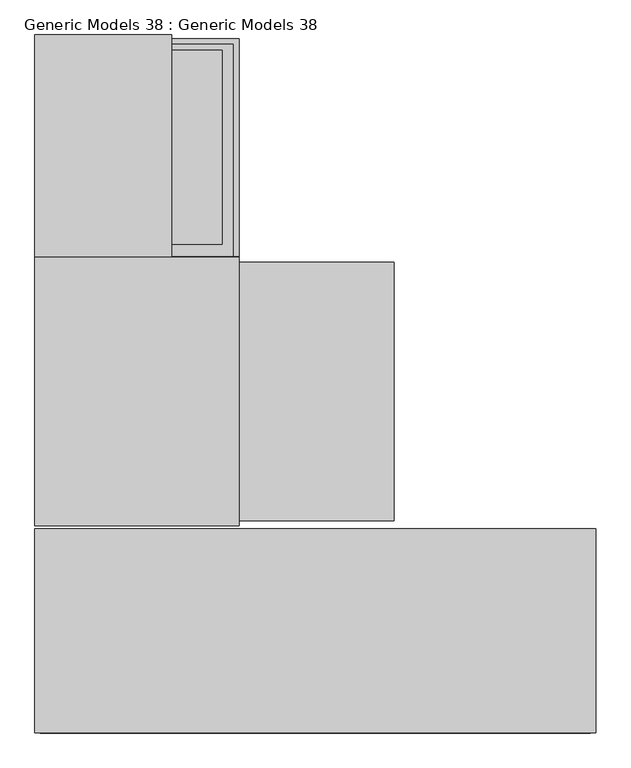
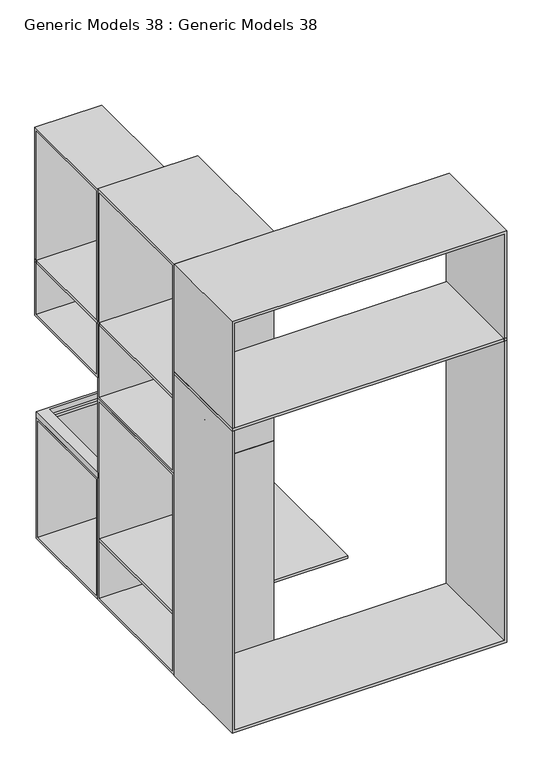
"""IFC4 building model written with IfcOpenShell, lengths in millimetres: proxy geometry, Generic Models 38 : Generic Models 38."""

import ifcopenshell
import ifcopenshell.guid

model = None  # the IFC model being written
_history = None  # IfcOwnerHistory: only IFC2X3 demands one
_inside = {}  # id of a spatial element -> (the spatial element, [elements in it])
_under = {}  # id of a project, library or spatial element -> (it, [spatial elements below it])
_declared = {}  # id of a project -> (the project, [libraries it declares])
_typed = {}  # id of a type object -> (the type object, [elements of that type])
_made_of = {}  # id of a material, layer set ... -> (it, [elements and type objects made of it])


def new_model(schema):
    """Start an empty IFC model of exactly this schema.

    Asked for "IFC4X3", IfcOpenShell would pick the latest addendum, in which some entities
    have other attributes; the version numbers below select the first issue.
    IFC2X3 requires an IfcOwnerHistory on every rooted entity: one is made here for all.
    """
    global model, _history
    if schema == "IFC4X3":
        model = ifcopenshell.file(schema_version=(4, 3, 0, 0))
    else:
        model = ifcopenshell.file(schema=schema)
    _inside.clear()
    _under.clear()
    _declared.clear()
    _typed.clear()
    _made_of.clear()
    _history = None
    if model.schema == "IFC2X3":
        org = make("IfcOrganization", Name="unknown")
        user = make(
            "IfcPersonAndOrganization",
            ThePerson=make("IfcPerson", FamilyName="unknown"),
            TheOrganization=org,
        )
        app = make(
            "IfcApplication",
            ApplicationDeveloper=org,
            Version="unknown",
            ApplicationFullName="unknown",
            ApplicationIdentifier="unknown",
        )
        _history = make(
            "IfcOwnerHistory",
            OwningUser=user,
            OwningApplication=app,
            ChangeAction="ADDED",
            CreationDate=0,
        )
    return model


def make(cls, **values):
    """One entity of the class cls with the attributes given. An attribute that is None is left unset."""
    return model.create_entity(
        cls, **{name: value for name, value in values.items() if value is not None}
    )


def rooted(cls, **values):
    """An entity with a GlobalId (a new one), such as an element, a storey or a relation."""
    return make(cls, GlobalId=ifcopenshell.guid.new(), OwnerHistory=_history, **values)


def si_unit(unit_type, name, prefix=None):
    """IfcSIUnit, for example si_unit("LENGTHUNIT", "METRE", prefix="MILLI")."""
    return make("IfcSIUnit", UnitType=unit_type, Prefix=prefix, Name=name)


def assignment(units):
    """IfcUnitAssignment: the units of a project."""
    return None if units is None else make("IfcUnitAssignment", Units=units)


def point(xyz):
    """IfcCartesianPoint."""
    return None if xyz is None else make("IfcCartesianPoint", Coordinates=xyz)


def direction(xyz):
    """IfcDirection."""
    return None if xyz is None else make("IfcDirection", DirectionRatios=xyz)


def frame(location, z_axis=None, x_axis=None):
    """IfcAxis2Placement3D, a coordinate frame: its origin and axes. An axis left out is left unset."""
    return make(
        "IfcAxis2Placement3D",
        Location=point(location),
        Axis=direction(z_axis),
        RefDirection=direction(x_axis),
    )


def frame_2d(location, x_axis=None):
    """IfcAxis2Placement2D, a coordinate frame in the plane: its origin and x axis."""
    return make(
        "IfcAxis2Placement2D", Location=point(location), RefDirection=direction(x_axis)
    )


def origin():
    """The frame at (0, 0, 0) with its axes left unset."""
    return frame((0.0, 0.0, 0.0))


def place(relative_to, where):
    """IfcLocalPlacement: puts the frame where relative to a parent placement (None: the world)."""
    return make(
        "IfcLocalPlacement", PlacementRelTo=relative_to, RelativePlacement=where
    )


def context(
    kind, dimensions, precision=None, world=None, true_north=None, identifier=None
):
    """IfcGeometricRepresentationContext, for example the 3D "Model" context."""
    return make(
        "IfcGeometricRepresentationContext",
        ContextIdentifier=identifier,
        ContextType=kind,
        CoordinateSpaceDimension=dimensions,
        Precision=precision,
        WorldCoordinateSystem=world,
        TrueNorth=true_north,
    )


def project(units=None, contexts=None):
    """IfcProject with its units and contexts."""
    return rooted(
        "IfcProject",
        Name="project",
        RepresentationContexts=contexts,
        UnitsInContext=assignment(units),
    )


def spatial(cls, under=None, at=None, **own):
    """A site, building, storey or space (cls), placed at a placement, below another one or the project."""
    s = rooted(cls, ObjectPlacement=at, **own)
    if under is not None:
        _under.setdefault(under.id(), (under, []))[1].append(s)
    return s


def polyline(points):
    """IfcPolyline through the points."""
    return make("IfcPolyline", Points=[point(p) for p in points])


def circle_curve(where, radius):
    """IfcCircle in the frame where."""
    return make("IfcCircle", Position=where, Radius=radius)


def trimmed(basis, trim1, trim2, sense, master):
    """IfcTrimmedCurve: the piece of a basis curve between two trims."""
    return make(
        "IfcTrimmedCurve",
        BasisCurve=basis,
        Trim1=trim1,
        Trim2=trim2,
        SenseAgreement=sense,
        MasterRepresentation=master,
    )


def segment(curve, same_sense, transition):
    """IfcCompositeCurveSegment."""
    return make(
        "IfcCompositeCurveSegment",
        Transition=transition,
        SameSense=same_sense,
        ParentCurve=curve,
    )


def composite_curve(segments, self_intersect=None):
    """IfcCompositeCurve: segments joined end to end."""
    return make("IfcCompositeCurve", Segments=segments, SelfIntersect=self_intersect)


def outline(outer, holes=None, kind="AREA"):
    """IfcArbitraryClosedProfileDef: a profile drawn as a closed curve; with holes, ...WithVoids."""
    if holes is None:
        return make("IfcArbitraryClosedProfileDef", ProfileType=kind, OuterCurve=outer)
    return make(
        "IfcArbitraryProfileDefWithVoids",
        ProfileType=kind,
        OuterCurve=outer,
        InnerCurves=holes,
    )


def extrude(swept, where, along, depth):
    """IfcExtrudedAreaSolid: the profile swept, set in the frame where, extruded along a direction by depth."""
    return make(
        "IfcExtrudedAreaSolid",
        SweptArea=swept,
        Position=where,
        ExtrudedDirection=direction(along),
        Depth=depth,
    )


def faces_of(points, faces, orient=None, outer=None):
    """IfcFace entities. A face is a list of loops; a loop is a list of indices into points, from 0.

    orient and outer hold one flag for each loop. By default every Orientation is true, the
    first loop of a face is its IfcFaceOuterBound and the others are IfcFaceBound.
    """
    made = []
    for i, loops in enumerate(faces):
        bounds = []
        for j, loop in enumerate(loops):
            is_outer = j == 0 if outer is None else outer[i][j]
            bounds.append(
                make(
                    "IfcFaceOuterBound" if is_outer else "IfcFaceBound",
                    Bound=make("IfcPolyLoop", Polygon=[points[k] for k in loop]),
                    Orientation=True if orient is None else orient[i][j],
                )
            )
        made.append(make("IfcFace", Bounds=bounds))
    return made


def faceted_brep(points, faces, orient=None, outer=None, voids=None):
    """IfcFacetedBrep: a solid bounded by flat faces; with voids (closed shells), ...WithVoids."""
    shared = [point(p) for p in points]
    hull = make("IfcClosedShell", CfsFaces=faces_of(shared, faces, orient, outer))
    if voids is None:
        return make("IfcFacetedBrep", Outer=hull)
    return make(
        "IfcFacetedBrepWithVoids",
        Outer=hull,
        Voids=[
            make(cls, CfsFaces=faces_of(shared, fs, o, b)) for cls, fs, o, b in voids
        ],
    )


def shape(context_of_items, identifier, shape_type, items):
    """IfcShapeRepresentation: the items that make up one representation, for example the "Body"."""
    return make(
        "IfcShapeRepresentation",
        ContextOfItems=context_of_items,
        RepresentationIdentifier=identifier,
        RepresentationType=shape_type,
        Items=items,
    )


def source(mapping_origin, context_of_items, identifier, shape_type, items):
    """IfcRepresentationMap: a shape defined once, which mapped items show again and again."""
    return make(
        "IfcRepresentationMap",
        MappingOrigin=mapping_origin,
        MappedRepresentation=shape(context_of_items, identifier, shape_type, items),
    )


def transform(
    local_origin,
    x_axis=None,
    y_axis=None,
    z_axis=None,
    scale=None,
    scale2=None,
    scale3=None,
    uniform=True,
):
    """IfcCartesianTransformationOperator3D, or its non-uniform kind. x_axis, y_axis, z_axis: its Axis1, 2, 3."""
    if uniform:
        return make(
            "IfcCartesianTransformationOperator3D",
            Axis1=direction(x_axis),
            Axis2=direction(y_axis),
            LocalOrigin=point(local_origin),
            Scale=scale,
            Axis3=direction(z_axis),
        )
    return make(
        "IfcCartesianTransformationOperator3DnonUniform",
        Axis1=direction(x_axis),
        Axis2=direction(y_axis),
        LocalOrigin=point(local_origin),
        Scale=scale,
        Axis3=direction(z_axis),
        Scale2=scale2,
        Scale3=scale3,
    )


def mapped(mapping_source, mapping_target):
    """IfcMappedItem: shows the shape of a source again, moved by a transform."""
    return make(
        "IfcMappedItem", MappingSource=mapping_source, MappingTarget=mapping_target
    )


def made_of(thing, what):
    """Note that an element or type object is made of a material, layer set ...; save() writes the relation."""
    if what is not None:
        _made_of.setdefault(what.id(), (what, []))[1].append(thing)
    return thing


def element(
    cls,
    number,
    at=None,
    inside=None,
    cuts=None,
    type_object=None,
    material=None,
    context=None,
    identifier="Body",
    shape_type=None,
    held_by="IfcProductDefinitionShape",
    body=None,
    shapes=None,
    **own,
):
    """One element of the class cls, such as IfcWall. Its Tag is "e" and its number.

    at: its placement. inside: the storey or other place that contains it. cuts: it is an
    opening in that element (IfcRelVoidsElement). A single representation is given by context,
    identifier, shape_type and body (its items); several are given by shapes. held_by: the class
    of the entity that holds the representations. save() writes the other relations.
    """
    e = rooted(cls, Tag="e%d" % number, ObjectPlacement=at, **own)
    if body is not None:
        shapes = [shape(context, identifier, shape_type, body)]
    if shapes is not None:
        e.Representation = make(held_by, Representations=shapes)
    if inside is not None:
        _inside.setdefault(inside.id(), (inside, []))[1].append(e)
    if cuts is not None:
        rooted(
            "IfcRelVoidsElement", RelatingBuildingElement=cuts, RelatedOpeningElement=e
        )
    if type_object is not None:
        _typed.setdefault(type_object.id(), (type_object, []))[1].append(e)
    return made_of(e, material)


def aggregate(whole, parts):
    """IfcRelAggregates: a whole, such as a stair, and the parts it consists of."""
    return rooted("IfcRelAggregates", RelatingObject=whole, RelatedObjects=parts)


def save(model, path):
    """Write the relations noted so far, then the file.

    IfcRelAggregates (storeys below a building ...), IfcRelContainedInSpatialStructure (elements
    in a storey), IfcRelDefinesByType, IfcRelAssociatesMaterial and IfcRelDeclares: one each for
    every whole, place, type object, material and project.
    """
    for whole, parts in _under.values():
        aggregate(whole, parts)
    for where, things in _inside.values():
        rooted(
            "IfcRelContainedInSpatialStructure",
            RelatedElements=things,
            RelatingStructure=where,
        )
    for kind, things in _typed.values():
        rooted("IfcRelDefinesByType", RelatedObjects=things, RelatingType=kind)
    for what, things in _made_of.values():
        rooted("IfcRelAssociatesMaterial", RelatedObjects=things, RelatingMaterial=what)
    for by, libraries in _declared.values():
        rooted("IfcRelDeclares", RelatingContext=by, RelatedDefinitions=libraries)
    model.write(path)


def generic_models_38_generic_models_38_3002575d(model_context):
    return source(origin(), model_context, "Body", "SolidModel", [
        extrude(outline(polyline([(91496.5513006, 18886.5102152), (91496.5513006, 18118.7602152), (90933.200692, 18118.7602152), (90933.200692, 18886.5102152), (91496.5513006, 18886.5102152)])), frame((0.0, 0.0, 1841.9834133), z_axis=(0.0, 0.0, 1.0), x_axis=(1.0, 0.0, 0.0)), (0.0, 0.0, 1.0), 16.0),
        extrude(outline(polyline([(91331.9023641, 19535.5373844), (91331.9023641, 18886.5102152), (90933.200692, 18886.5102152), (90933.200692, 19535.5373844), (91331.9023641, 19535.5373844)])), frame((0.0, 0.0, 1841.9834133), z_axis=(0.0, 0.0, 1.0), x_axis=(1.0, 0.0, 0.0)), (0.0, 0.0, 1.0), 16.0),
        extrude(outline(polyline([(91529.3681764, 19510.6562218), (91529.3681764, 18888.4582185), (91513.3681764, 18888.4582185), (91513.3681764, 19510.6562218), (91529.3681764, 19510.6562218)])), frame((0.0, 0.0, 118.7196902), z_axis=(0.0, 0.0, 1.0), x_axis=(1.0, 0.0, 0.0)), (0.0, 0.0, 1.0), 748.4549999),
        extrude(outline(polyline([(91529.3681764, 19524.1562218), (91529.3681764, 18888.4582185), (91513.5590244, 18888.4582185), (91513.5590244, 19510.6562218), (91003.5590191, 19510.6562218), (91003.5590191, 18888.4582185), (90933.200692, 18888.4582185), (90933.200692, 19524.1562218), (91529.3681764, 19524.1562218)])), frame((0.0, 0.0, 867.1746901), z_axis=(0.0, 0.0, 1.0), x_axis=(1.0, 0.0, 0.0)), (0.0, 0.0, 1.0), 32.8253099),
        extrude(outline(polyline([(18888.4582185, 102.7196902), (18102.7602152, 102.7196902), (18102.7602152, 1371.9834133), (18888.4582185, 1371.9834133), (18888.4582185, 102.7196902)]), holes=[polyline([(18118.7602152, 1355.9834133), (18118.7602152, 118.7196902), (18872.4582185, 118.7196902), (18872.4582185, 1355.9834133), (18118.7602152, 1355.9834133)])]), frame((90933.200692, 0.0, 0.0), z_axis=(1.0, 0.0, 0.0), x_axis=(0.0, 1.0, 0.0)), (0.0, 0.0, 1.0), 596.1674844),
        extrude(outline(polyline([(91982.0393609, 18872.4582185), (91982.0393609, 18118.7602152), (91529.9827087, 18118.7602152), (91529.9827087, 18872.4582185), (91982.0393609, 18872.4582185)])), frame((0.0, 0.0, 462.7707596), z_axis=(0.0, 0.0, 1.0), x_axis=(1.0, 0.0, 0.0)), (0.0, 0.0, 1.0), 15.797643),
        extrude(outline(polyline([(91529.3681764, 18872.4582185), (91529.3681764, 18118.7602152), (90933.200692, 18118.7602152), (90933.200692, 18872.4582185), (91529.3681764, 18872.4582185)])), frame((0.0, 0.0, 478.5684026), z_axis=(0.0, 0.0, 1.0), x_axis=(1.0, 0.0, 0.0)), (0.0, 0.0, 1.0), 15.797643),
        extrude(outline(polyline([(90933.200692, 18094.741243), (92571.6623677, 18094.741243), (92571.6623677, 17498.5737587), (90933.200692, 17498.5737587), (90933.200692, 18094.741243)])), frame((0.0, 0.0, 2004.9596521), z_axis=(0.0, 0.0, 1.0), x_axis=(1.0, 0.0, 0.0)), (0.0, 0.0, 1.0), 16.0),
        extrude(outline(composite_curve([segment(trimmed(circle_curve(frame_2d((17792.4455625, 1909.0474305)), 10.0), [point((17792.4455625, 1899.0474305))], [point((17792.4455625, 1919.0474305))], False, "CARTESIAN"), True, "CONTINUOUS"), segment(trimmed(circle_curve(frame_2d((17792.4455625, 1909.0474305)), 10.0), [point((17792.4455625, 1919.0474305))], [point((17792.4455625, 1899.0474305))], False, "CARTESIAN"), True, "CONTINUOUS")], self_intersect=False)), frame((90937.7574017, 0.0, 0.0), z_axis=(1.0, 0.0, 0.0), x_axis=(0.0, 1.0, 0.0)), (0.0, 0.0, 1.0), 1617.9049659),
        extrude(outline(polyline([(102.6286615, 90933.200692), (102.6286615, 92571.6623677), (2695.9596521, 92571.6623677), (2695.9596521, 90933.200692), (102.6286615, 90933.200692)]), holes=[polyline([(2679.9596521, 92555.6623677), (118.6286615, 92555.6623677), (118.6286615, 90949.200692), (2679.9596521, 90949.200692), (2679.9596521, 92555.6623677)])]), frame((0.0, 17498.5737587, 0.0), z_axis=(0.0, 1.0, 0.0), x_axis=(0.0, 0.0, 1.0)), (0.0, 0.0, 1.0), 596.1674844),
        extrude(outline(polyline([(19535.5373844, 1501.9834133), (18886.5102152, 1501.9834133), (18886.5102152, 2686.735796), (19535.5373844, 2686.735796), (19535.5373844, 1501.9834133)]), holes=[polyline([(18902.5102152, 2670.735796), (18902.5102152, 1517.9834133), (19519.5373844, 1517.9834133), (19519.5373844, 2670.735796), (18902.5102152, 2670.735796)])]), frame((90933.200692, 0.0, 0.0), z_axis=(1.0, 0.0, 0.0), x_axis=(0.0, 1.0, 0.0)), (0.0, 0.0, 1.0), 398.7016721),
        extrude(outline(polyline([(18886.5102152, 1371.9834133), (18102.7602152, 1371.9834133), (18102.7602152, 2691.5911702), (18886.5102152, 2691.5911702), (18886.5102152, 1371.9834133)]), holes=[polyline([(18118.7602152, 2675.5911702), (18118.7602152, 1387.9834133), (18870.5102152, 1387.9834133), (18870.5102152, 2675.5911702), (18118.7602152, 2675.5911702)])]), frame((90933.200692, 0.0, 0.0), z_axis=(1.0, 0.0, 0.0), x_axis=(0.0, 1.0, 0.0)), (0.0, 0.0, 1.0), 596.1674844),
        faceted_brep([(91529.3681764, 19524.1562218, 102.7196902), (91529.3681764, 19524.1562218, 867.1746901), (91529.3681764, 18888.4582185, 867.1746901), (91529.3681764, 18888.4582185, 102.7196902), (91529.3681764, 18904.4582185, 851.1746901), (91529.3681764, 19508.1562218, 851.1746901), (91529.3681764, 19508.1562218, 118.7196902), (91529.3681764, 18904.4582185, 118.7196902), (90933.200692, 19524.1562218, 102.7196902), (90933.200692, 18888.4582185, 102.7196902), (90933.200692, 18888.4582185, 867.1746901), (90933.200692, 19524.1562218, 867.1746901), (90933.200692, 18904.4582185, 851.1746901), (90933.200692, 18904.4582185, 118.7196902), (90933.200692, 19508.1562218, 118.7196902), (90933.200692, 19508.1562218, 851.1746901), (91003.5590191, 19491.5008997, 867.1746901), (91479.2420376, 19491.5008997, 867.1746901), (91479.2420376, 18925.5202184, 867.1746901), (91003.5590191, 18925.5202184, 867.1746901), (91003.5590191, 19491.5008997, 851.1746901), (91479.2420376, 19491.5008997, 851.1746901), (91479.2420376, 18925.5202184, 851.1746901), (91003.5590191, 18925.5202184, 851.1746901)], [[[0, 1, 2, 3], [4, 5, 6, 7]], [[8, 9, 10, 11], [12, 13, 14, 15]], [[1, 0, 8, 11]], [[2, 1, 11, 10], [16, 17, 18, 19]], [[0, 3, 9, 8]], [[3, 2, 10, 9]], [[16, 20, 21, 17]], [[17, 21, 22, 18]], [[18, 22, 23, 19]], [[20, 16, 19, 23]], [[5, 4, 12, 15], [21, 20, 23, 22]], [[6, 5, 15, 14]], [[7, 6, 14, 13]], [[4, 7, 13, 12]]]),
    ])


if __name__ == "__main__":
    model = new_model("IFC4")
    model_context = context("Model", 3, world=origin())
    ifc_project = project(units=[si_unit("LENGTHUNIT", "METRE", prefix="MILLI")], contexts=[model_context])
    site = spatial("IfcSite", under=ifc_project)
    building = spatial("IfcBuilding", under=site)
    placement = place(None, origin())
    generic_models_38_generic_models_38_shape = generic_models_38_generic_models_38_3002575d(model_context)
    element("IfcBuildingElementProxy", 1, Name="Generic Models 38 : Generic Models 38", ObjectType="Generic Models 38 : Generic Models 38", at=placement, inside=building, context=model_context, shape_type="MappedRepresentation", body=[
        mapped(generic_models_38_generic_models_38_shape, transform((0.0, 0.0, 0.0), x_axis=(1.0, 0.0, 0.0), y_axis=(0.0, 1.0, 0.0), z_axis=(0.0, 0.0, 1.0))),
    ])
    save(model, "model.ifc")
